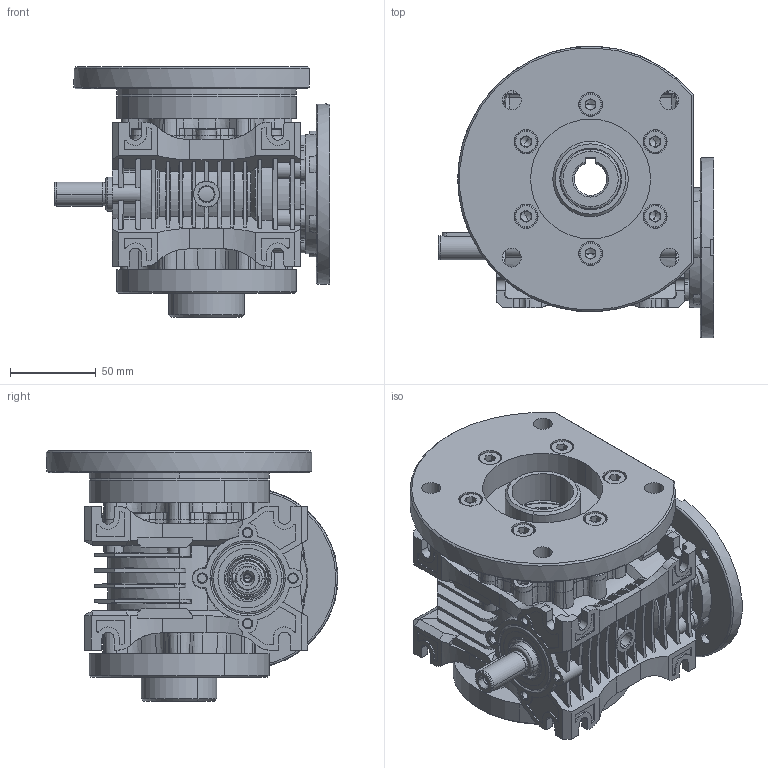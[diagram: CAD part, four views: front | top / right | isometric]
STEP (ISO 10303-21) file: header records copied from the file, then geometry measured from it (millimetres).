
FILE_DESCRIPTION (( 'STEP AP203' ), '1' );
FILE_NAME ('MRP-40_105_14-WBS_SO-1_KM-2_3D.STEP', '2024-10-23T05:13:14', ( '' ), ( '' ), 'SwSTEP 2.0', 'SolidWorks 2022', '' );
FILE_SCHEMA (( 'CONFIG_CONTROL_DESIGN' ));
Products named in the file (1): MRP-40_105_14-WBS_SO-1_KM-2_3D
Bounding box: 161 x 169.96 x 146.5 mm (x, y, z)
Volume: 1172408 mm3; surface area: 272591.6 mm2
Topology: 1 solids, 74 shells, 3212 faces, 8191 edges, 5179 vertices
Faces by surface type: plane 1281, cone 907, cylinder 576, bspline 222, torus 190, sphere 36
Entity records: 105566 total; most frequent: CARTESIAN_POINT 29635, ORIENTED_EDGE 16238, DIRECTION 15702, EDGE_CURVE 8119, AXIS2_PLACEMENT_3D 6025, VERTEX_POINT 5179, LINE 3652, VECTOR 3652
